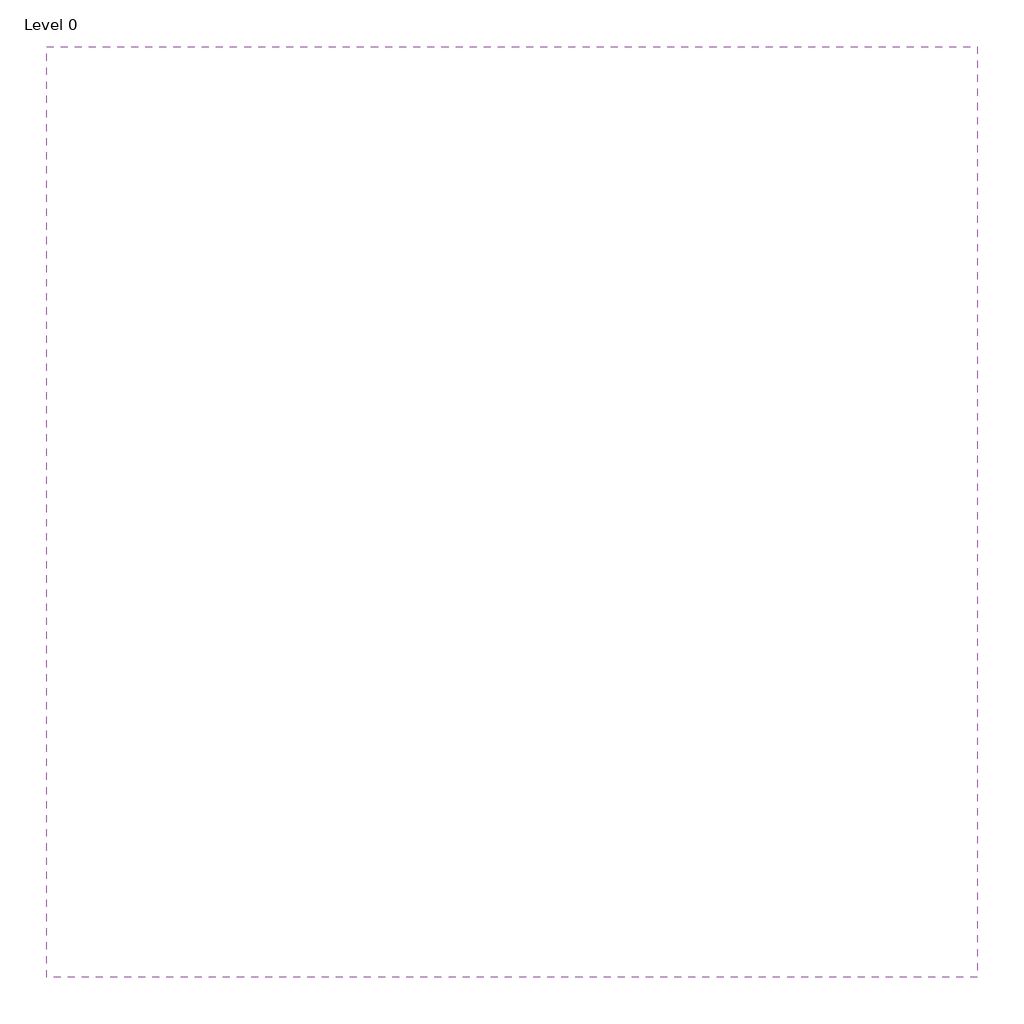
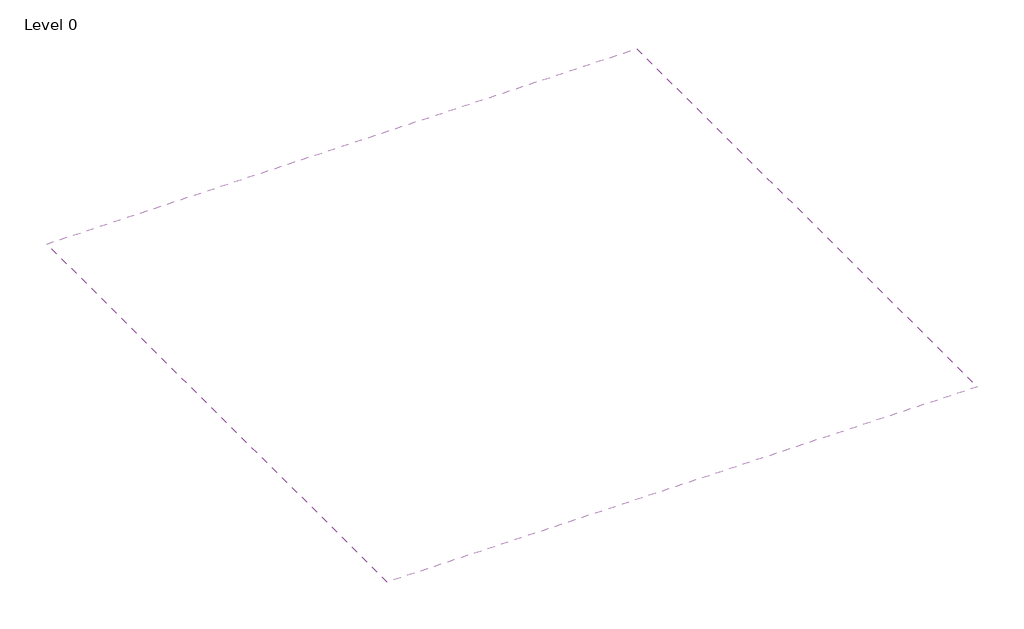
# One storey, incomplete: 1 covering.
"""IFC4 building model written with IfcOpenShell, lengths in millimetres."""

import ifcopenshell
import ifcopenshell.guid

model = None  # the IFC model being written
_history = None  # IfcOwnerHistory: only IFC2X3 demands one
_inside = {}  # id of a spatial element -> (the spatial element, [elements in it])
_under = {}  # id of a project, library or spatial element -> (it, [spatial elements below it])
_declared = {}  # id of a project -> (the project, [libraries it declares])
_typed = {}  # id of a type object -> (the type object, [elements of that type])
_made_of = {}  # id of a material, layer set ... -> (it, [elements and type objects made of it])


def new_model(schema):
    """Start an empty IFC model of exactly this schema.

    Asked for "IFC4X3", IfcOpenShell would pick the latest addendum, in which some entities
    have other attributes; the version numbers below select the first issue.
    IFC2X3 requires an IfcOwnerHistory on every rooted entity: one is made here for all.
    """
    global model, _history
    if schema == "IFC4X3":
        model = ifcopenshell.file(schema_version=(4, 3, 0, 0))
    else:
        model = ifcopenshell.file(schema=schema)
    _inside.clear()
    _under.clear()
    _declared.clear()
    _typed.clear()
    _made_of.clear()
    _history = None
    if model.schema == "IFC2X3":
        org = make("IfcOrganization", Name="unknown")
        user = make(
            "IfcPersonAndOrganization",
            ThePerson=make("IfcPerson", FamilyName="unknown"),
            TheOrganization=org,
        )
        app = make(
            "IfcApplication",
            ApplicationDeveloper=org,
            Version="unknown",
            ApplicationFullName="unknown",
            ApplicationIdentifier="unknown",
        )
        _history = make(
            "IfcOwnerHistory",
            OwningUser=user,
            OwningApplication=app,
            ChangeAction="ADDED",
            CreationDate=0,
        )
    return model


def make(cls, **values):
    """One entity of the class cls with the attributes given. An attribute that is None is left unset."""
    return model.create_entity(
        cls, **{name: value for name, value in values.items() if value is not None}
    )


def rooted(cls, **values):
    """An entity with a GlobalId (a new one), such as an element, a storey or a relation."""
    return make(cls, GlobalId=ifcopenshell.guid.new(), OwnerHistory=_history, **values)


def si_unit(unit_type, name, prefix=None):
    """IfcSIUnit, for example si_unit("LENGTHUNIT", "METRE", prefix="MILLI")."""
    return make("IfcSIUnit", UnitType=unit_type, Prefix=prefix, Name=name)


def assignment(units):
    """IfcUnitAssignment: the units of a project."""
    return None if units is None else make("IfcUnitAssignment", Units=units)


def point(xyz):
    """IfcCartesianPoint."""
    return None if xyz is None else make("IfcCartesianPoint", Coordinates=xyz)


def direction(xyz):
    """IfcDirection."""
    return None if xyz is None else make("IfcDirection", DirectionRatios=xyz)


def frame(location, z_axis=None, x_axis=None):
    """IfcAxis2Placement3D, a coordinate frame: its origin and axes. An axis left out is left unset."""
    return make(
        "IfcAxis2Placement3D",
        Location=point(location),
        Axis=direction(z_axis),
        RefDirection=direction(x_axis),
    )


def origin():
    """The frame at (0, 0, 0) with its axes left unset."""
    return frame((0.0, 0.0, 0.0))


def place(relative_to, where):
    """IfcLocalPlacement: puts the frame where relative to a parent placement (None: the world)."""
    return make(
        "IfcLocalPlacement", PlacementRelTo=relative_to, RelativePlacement=where
    )


def context(
    kind, dimensions, precision=None, world=None, true_north=None, identifier=None
):
    """IfcGeometricRepresentationContext, for example the 3D "Model" context."""
    return make(
        "IfcGeometricRepresentationContext",
        ContextIdentifier=identifier,
        ContextType=kind,
        CoordinateSpaceDimension=dimensions,
        Precision=precision,
        WorldCoordinateSystem=world,
        TrueNorth=true_north,
    )


def project(units=None, contexts=None):
    """IfcProject with its units and contexts."""
    return rooted(
        "IfcProject",
        Name="project",
        RepresentationContexts=contexts,
        UnitsInContext=assignment(units),
    )


def spatial(cls, under=None, at=None, **own):
    """A site, building, storey or space (cls), placed at a placement, below another one or the project."""
    s = rooted(cls, ObjectPlacement=at, **own)
    if under is not None:
        _under.setdefault(under.id(), (under, []))[1].append(s)
    return s


def polyline(points):
    """IfcPolyline through the points."""
    return make("IfcPolyline", Points=[point(p) for p in points])


def outline(outer, holes=None, kind="AREA"):
    """IfcArbitraryClosedProfileDef: a profile drawn as a closed curve; with holes, ...WithVoids."""
    if holes is None:
        return make("IfcArbitraryClosedProfileDef", ProfileType=kind, OuterCurve=outer)
    return make(
        "IfcArbitraryProfileDefWithVoids",
        ProfileType=kind,
        OuterCurve=outer,
        InnerCurves=holes,
    )


def extrude(swept, where, along, depth):
    """IfcExtrudedAreaSolid: the profile swept, set in the frame where, extruded along a direction by depth."""
    return make(
        "IfcExtrudedAreaSolid",
        SweptArea=swept,
        Position=where,
        ExtrudedDirection=direction(along),
        Depth=depth,
    )


def shape(context_of_items, identifier, shape_type, items):
    """IfcShapeRepresentation: the items that make up one representation, for example the "Body"."""
    return make(
        "IfcShapeRepresentation",
        ContextOfItems=context_of_items,
        RepresentationIdentifier=identifier,
        RepresentationType=shape_type,
        Items=items,
    )


def made_of(thing, what):
    """Note that an element or type object is made of a material, layer set ...; save() writes the relation."""
    if what is not None:
        _made_of.setdefault(what.id(), (what, []))[1].append(thing)
    return thing


def element(
    cls,
    number,
    at=None,
    inside=None,
    cuts=None,
    type_object=None,
    material=None,
    context=None,
    identifier="Body",
    shape_type=None,
    held_by="IfcProductDefinitionShape",
    body=None,
    shapes=None,
    **own,
):
    """One element of the class cls, such as IfcWall. Its Tag is "e" and its number.

    at: its placement. inside: the storey or other place that contains it. cuts: it is an
    opening in that element (IfcRelVoidsElement). A single representation is given by context,
    identifier, shape_type and body (its items); several are given by shapes. held_by: the class
    of the entity that holds the representations. save() writes the other relations.
    """
    e = rooted(cls, Tag="e%d" % number, ObjectPlacement=at, **own)
    if body is not None:
        shapes = [shape(context, identifier, shape_type, body)]
    if shapes is not None:
        e.Representation = make(held_by, Representations=shapes)
    if inside is not None:
        _inside.setdefault(inside.id(), (inside, []))[1].append(e)
    if cuts is not None:
        rooted(
            "IfcRelVoidsElement", RelatingBuildingElement=cuts, RelatedOpeningElement=e
        )
    if type_object is not None:
        _typed.setdefault(type_object.id(), (type_object, []))[1].append(e)
    return made_of(e, material)


def aggregate(whole, parts):
    """IfcRelAggregates: a whole, such as a stair, and the parts it consists of."""
    return rooted("IfcRelAggregates", RelatingObject=whole, RelatedObjects=parts)


def save(model, path):
    """Write the relations noted so far, then the file.

    IfcRelAggregates (storeys below a building ...), IfcRelContainedInSpatialStructure (elements
    in a storey), IfcRelDefinesByType, IfcRelAssociatesMaterial and IfcRelDeclares: one each for
    every whole, place, type object, material and project.
    """
    for whole, parts in _under.values():
        aggregate(whole, parts)
    for where, things in _inside.values():
        rooted(
            "IfcRelContainedInSpatialStructure",
            RelatedElements=things,
            RelatingStructure=where,
        )
    for kind, things in _typed.values():
        rooted("IfcRelDefinesByType", RelatedObjects=things, RelatingType=kind)
    for what, things in _made_of.values():
        rooted("IfcRelAssociatesMaterial", RelatedObjects=things, RelatingMaterial=what)
    for by, libraries in _declared.values():
        rooted("IfcRelDeclares", RelatingContext=by, RelatedDefinitions=libraries)
    model.write(path)


model = new_model("IFC4")

# Units and contexts
model_context = context("Model", 3, world=origin())
ifc_project = project(units=[si_unit("LENGTHUNIT", "METRE", prefix="MILLI")], contexts=[model_context])

# Site, building, storey
site = spatial("IfcSite", under=ifc_project)
building = spatial("IfcBuilding", under=site)
storey = spatial("IfcBuildingStorey", under=building, Name="Level 0", Elevation=0.0)

# Covering
placement = place(None, origin())
element("IfcCovering", 1, ObjectType="Plain", at=placement, inside=storey, context=model_context, shape_type="SweptSolid", body=[
    extrude(outline(polyline([(7490.6493051, 7494.8864709), (7490.6493051, -7505.1135291), (-7509.3506949, -7505.1135291), (-7509.3506949, 7494.8864709), (7490.6493051, 7494.8864709)])), frame((0.0, 0.0, 2600.0), z_axis=(0.0, 0.0, 1.0), x_axis=(1.0, 0.0, 0.0)), (0.0, 0.0, 1.0), 57.0),
])

save(model, "model.ifc")
